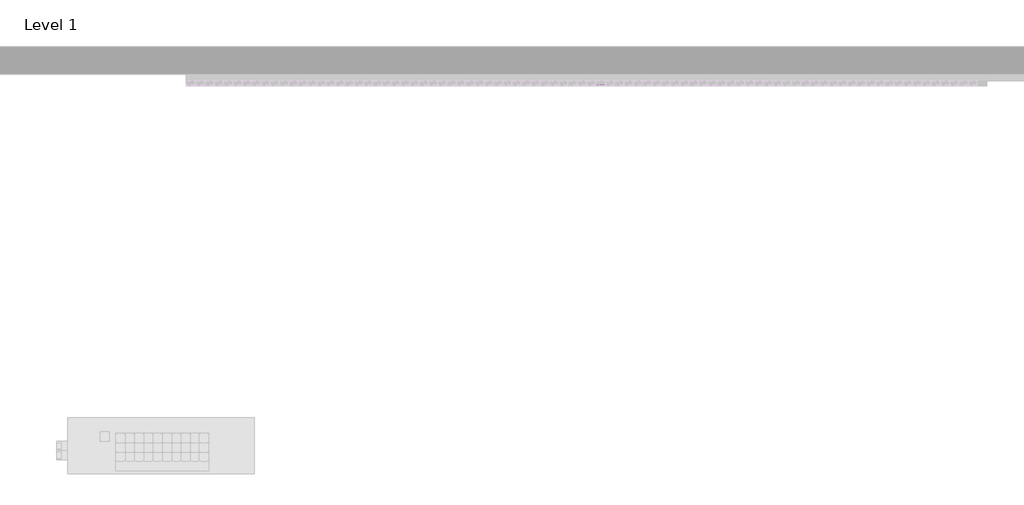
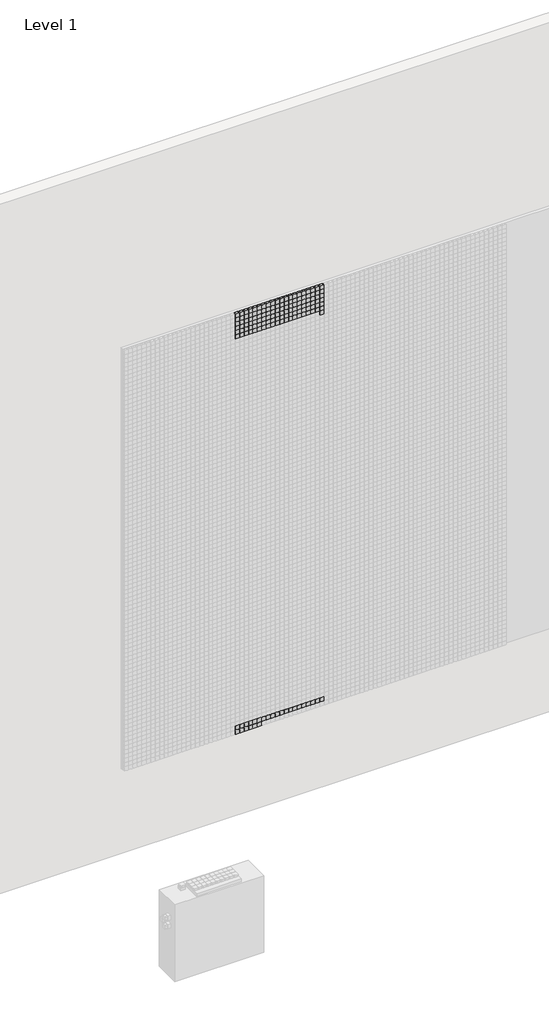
# One storey, part 21 of 71: 147 proxies.
"""IFC4 building model written with IfcOpenShell, lengths in millimetres."""

from ifc_helpers import new_model, si_unit, origin, place, context, project, spatial, transform, mapped, element, save
from components import generic_models_afde289c

model = new_model("IFC4")

# Units and contexts
model_context = context("Model", 3, world=origin())
ifc_project = project(units=[si_unit("LENGTHUNIT", "METRE", prefix="MILLI")], contexts=[model_context])

# Site, building, storey
site = spatial("IfcSite", under=ifc_project)
building = spatial("IfcBuilding", under=site)
storey = spatial("IfcBuildingStorey", under=building, Name="Level 1", Elevation=0.0)

# Proxies
placement = place(None, origin())
generic_models_shape = generic_models_afde289c(model_context)
element("IfcBuildingElementProxy", 1, Name="Pixel_M : Pixel_M", ObjectType="Pixel_M : Pixel_M", at=placement, inside=storey, context=model_context, shape_type="MappedRepresentation", body=[
    mapped(generic_models_shape, transform((6262.4280941, -75.0, 1016.3566215), x_axis=(1.0, 0.0, 0.0), y_axis=(0.0, 0.0, 1.0), z_axis=(0.0, -1.0, 0.0))),
])
element("IfcBuildingElementProxy", 2, Name="Pixel_M : Pixel_M", ObjectType="Pixel_M : Pixel_M", at=placement, inside=storey, context=model_context, shape_type="MappedRepresentation", body=[
    mapped(generic_models_shape, transform((6212.4280941, -75.0, 1016.3566215), x_axis=(1.0, 0.0, 0.0), y_axis=(0.0, 0.0, 1.0), z_axis=(0.0, -1.0, 0.0))),
])
element("IfcBuildingElementProxy", 3, Name="Pixel_M : Pixel_M", ObjectType="Pixel_M : Pixel_M", at=placement, inside=storey, context=model_context, shape_type="MappedRepresentation", body=[
    mapped(generic_models_shape, transform((6162.4280941, -75.0, 1016.3566215), x_axis=(1.0, 0.0, 0.0), y_axis=(0.0, 0.0, 1.0), z_axis=(0.0, -1.0, 0.0))),
])
element("IfcBuildingElementProxy", 4, Name="Pixel_M : Pixel_M", ObjectType="Pixel_M : Pixel_M", at=placement, inside=storey, context=model_context, shape_type="MappedRepresentation", body=[
    mapped(generic_models_shape, transform((6112.4280941, -75.0, 1016.3566215), x_axis=(1.0, 0.0, 0.0), y_axis=(0.0, 0.0, 1.0), z_axis=(0.0, -1.0, 0.0))),
])
element("IfcBuildingElementProxy", 5, Name="Pixel_M : Pixel_M", ObjectType="Pixel_M : Pixel_M", at=placement, inside=storey, context=model_context, shape_type="MappedRepresentation", body=[
    mapped(generic_models_shape, transform((6062.4280941, -75.0, 1016.3566215), x_axis=(1.0, 0.0, 0.0), y_axis=(0.0, 0.0, 1.0), z_axis=(0.0, -1.0, 0.0))),
])
element("IfcBuildingElementProxy", 6, Name="Pixel_M : Pixel_M", ObjectType="Pixel_M : Pixel_M", at=placement, inside=storey, context=model_context, shape_type="MappedRepresentation", body=[
    mapped(generic_models_shape, transform((6012.4280941, -75.0, 1016.3566215), x_axis=(1.0, 0.0, 0.0), y_axis=(0.0, 0.0, 1.0), z_axis=(0.0, -1.0, 0.0))),
])
element("IfcBuildingElementProxy", 7, Name="Pixel_M : Pixel_M", ObjectType="Pixel_M : Pixel_M", at=placement, inside=storey, context=model_context, shape_type="MappedRepresentation", body=[
    mapped(generic_models_shape, transform((6962.4280941, -75.0, 1066.3566215), x_axis=(1.0, 0.0, 0.0), y_axis=(0.0, 0.0, 1.0), z_axis=(0.0, -1.0, 0.0))),
])
element("IfcBuildingElementProxy", 8, Name="Pixel_M : Pixel_M", ObjectType="Pixel_M : Pixel_M", at=placement, inside=storey, context=model_context, shape_type="MappedRepresentation", body=[
    mapped(generic_models_shape, transform((6912.4280941, -75.0, 1066.3566215), x_axis=(1.0, 0.0, 0.0), y_axis=(0.0, 0.0, 1.0), z_axis=(0.0, -1.0, 0.0))),
])
element("IfcBuildingElementProxy", 9, Name="Pixel_M : Pixel_M", ObjectType="Pixel_M : Pixel_M", at=placement, inside=storey, context=model_context, shape_type="MappedRepresentation", body=[
    mapped(generic_models_shape, transform((6862.4280941, -75.0, 1066.3566215), x_axis=(1.0, 0.0, 0.0), y_axis=(0.0, 0.0, 1.0), z_axis=(0.0, -1.0, 0.0))),
])
element("IfcBuildingElementProxy", 10, Name="Pixel_M : Pixel_M", ObjectType="Pixel_M : Pixel_M", at=placement, inside=storey, context=model_context, shape_type="MappedRepresentation", body=[
    mapped(generic_models_shape, transform((6812.4280941, -75.0, 1066.3566215), x_axis=(1.0, 0.0, 0.0), y_axis=(0.0, 0.0, 1.0), z_axis=(0.0, -1.0, 0.0))),
])
element("IfcBuildingElementProxy", 11, Name="Pixel_M : Pixel_M", ObjectType="Pixel_M : Pixel_M", at=placement, inside=storey, context=model_context, shape_type="MappedRepresentation", body=[
    mapped(generic_models_shape, transform((6762.4280941, -75.0, 1066.3566215), x_axis=(1.0, 0.0, 0.0), y_axis=(0.0, 0.0, 1.0), z_axis=(0.0, -1.0, 0.0))),
])
element("IfcBuildingElementProxy", 12, Name="Pixel_M : Pixel_M", ObjectType="Pixel_M : Pixel_M", at=placement, inside=storey, context=model_context, shape_type="MappedRepresentation", body=[
    mapped(generic_models_shape, transform((6712.4280941, -75.0, 1066.3566215), x_axis=(1.0, 0.0, 0.0), y_axis=(0.0, 0.0, 1.0), z_axis=(0.0, -1.0, 0.0))),
])
element("IfcBuildingElementProxy", 13, Name="Pixel_M : Pixel_M", ObjectType="Pixel_M : Pixel_M", at=placement, inside=storey, context=model_context, shape_type="MappedRepresentation", body=[
    mapped(generic_models_shape, transform((6662.4280941, -75.0, 1066.3566215), x_axis=(1.0, 0.0, 0.0), y_axis=(0.0, 0.0, 1.0), z_axis=(0.0, -1.0, 0.0))),
])
element("IfcBuildingElementProxy", 14, Name="Pixel_M : Pixel_M", ObjectType="Pixel_M : Pixel_M", at=placement, inside=storey, context=model_context, shape_type="MappedRepresentation", body=[
    mapped(generic_models_shape, transform((6612.4280941, -75.0, 1066.3566215), x_axis=(1.0, 0.0, 0.0), y_axis=(0.0, 0.0, 1.0), z_axis=(0.0, -1.0, 0.0))),
])
element("IfcBuildingElementProxy", 15, Name="Pixel_M : Pixel_M", ObjectType="Pixel_M : Pixel_M", at=placement, inside=storey, context=model_context, shape_type="MappedRepresentation", body=[
    mapped(generic_models_shape, transform((6562.4280941, -75.0, 1066.3566215), x_axis=(1.0, 0.0, 0.0), y_axis=(0.0, 0.0, 1.0), z_axis=(0.0, -1.0, 0.0))),
])
element("IfcBuildingElementProxy", 16, Name="Pixel_M : Pixel_M", ObjectType="Pixel_M : Pixel_M", at=placement, inside=storey, context=model_context, shape_type="MappedRepresentation", body=[
    mapped(generic_models_shape, transform((6512.4280941, -75.0, 1066.3566215), x_axis=(1.0, 0.0, 0.0), y_axis=(0.0, 0.0, 1.0), z_axis=(0.0, -1.0, 0.0))),
])
element("IfcBuildingElementProxy", 17, Name="Pixel_M : Pixel_M", ObjectType="Pixel_M : Pixel_M", at=placement, inside=storey, context=model_context, shape_type="MappedRepresentation", body=[
    mapped(generic_models_shape, transform((6462.4280941, -75.0, 1066.3566215), x_axis=(1.0, 0.0, 0.0), y_axis=(0.0, 0.0, 1.0), z_axis=(0.0, -1.0, 0.0))),
])
element("IfcBuildingElementProxy", 18, Name="Pixel_M : Pixel_M", ObjectType="Pixel_M : Pixel_M", at=placement, inside=storey, context=model_context, shape_type="MappedRepresentation", body=[
    mapped(generic_models_shape, transform((6412.4280941, -75.0, 1066.3566215), x_axis=(1.0, 0.0, 0.0), y_axis=(0.0, 0.0, 1.0), z_axis=(0.0, -1.0, 0.0))),
])
element("IfcBuildingElementProxy", 19, Name="Pixel_M : Pixel_M", ObjectType="Pixel_M : Pixel_M", at=placement, inside=storey, context=model_context, shape_type="MappedRepresentation", body=[
    mapped(generic_models_shape, transform((6362.4280941, -75.0, 1066.3566215), x_axis=(1.0, 0.0, 0.0), y_axis=(0.0, 0.0, 1.0), z_axis=(0.0, -1.0, 0.0))),
])
element("IfcBuildingElementProxy", 20, Name="Pixel_M : Pixel_M", ObjectType="Pixel_M : Pixel_M", at=placement, inside=storey, context=model_context, shape_type="MappedRepresentation", body=[
    mapped(generic_models_shape, transform((6312.4280941, -75.0, 1066.3566215), x_axis=(1.0, 0.0, 0.0), y_axis=(0.0, 0.0, 1.0), z_axis=(0.0, -1.0, 0.0))),
])
element("IfcBuildingElementProxy", 21, Name="Pixel_M : Pixel_M", ObjectType="Pixel_M : Pixel_M", at=placement, inside=storey, context=model_context, shape_type="MappedRepresentation", body=[
    mapped(generic_models_shape, transform((6262.4280941, -75.0, 1066.3566215), x_axis=(1.0, 0.0, 0.0), y_axis=(0.0, 0.0, 1.0), z_axis=(0.0, -1.0, 0.0))),
])
element("IfcBuildingElementProxy", 22, Name="Pixel_M : Pixel_M", ObjectType="Pixel_M : Pixel_M", at=placement, inside=storey, context=model_context, shape_type="MappedRepresentation", body=[
    mapped(generic_models_shape, transform((6212.4280941, -75.0, 1066.3566215), x_axis=(1.0, 0.0, 0.0), y_axis=(0.0, 0.0, 1.0), z_axis=(0.0, -1.0, 0.0))),
])
element("IfcBuildingElementProxy", 23, Name="Pixel_M : Pixel_M", ObjectType="Pixel_M : Pixel_M", at=placement, inside=storey, context=model_context, shape_type="MappedRepresentation", body=[
    mapped(generic_models_shape, transform((6162.4280941, -75.0, 1066.3566215), x_axis=(1.0, 0.0, 0.0), y_axis=(0.0, 0.0, 1.0), z_axis=(0.0, -1.0, 0.0))),
])
element("IfcBuildingElementProxy", 24, Name="Pixel_M : Pixel_M", ObjectType="Pixel_M : Pixel_M", at=placement, inside=storey, context=model_context, shape_type="MappedRepresentation", body=[
    mapped(generic_models_shape, transform((6112.4280941, -75.0, 1066.3566215), x_axis=(1.0, 0.0, 0.0), y_axis=(0.0, 0.0, 1.0), z_axis=(0.0, -1.0, 0.0))),
])
element("IfcBuildingElementProxy", 25, Name="Pixel_M : Pixel_M", ObjectType="Pixel_M : Pixel_M", at=placement, inside=storey, context=model_context, shape_type="MappedRepresentation", body=[
    mapped(generic_models_shape, transform((6062.4280941, -75.0, 1066.3566215), x_axis=(1.0, 0.0, 0.0), y_axis=(0.0, 0.0, 1.0), z_axis=(0.0, -1.0, 0.0))),
])
element("IfcBuildingElementProxy", 26, Name="Pixel_M : Pixel_M", ObjectType="Pixel_M : Pixel_M", at=placement, inside=storey, context=model_context, shape_type="MappedRepresentation", body=[
    mapped(generic_models_shape, transform((6012.4280941, -75.0, 1066.3566215), x_axis=(1.0, 0.0, 0.0), y_axis=(0.0, 0.0, 1.0), z_axis=(0.0, -1.0, 0.0))),
])
element("IfcBuildingElementProxy", 27, Name="Pixel_M : Pixel_M", ObjectType="Pixel_M : Pixel_M", at=placement, inside=storey, context=model_context, shape_type="MappedRepresentation", body=[
    mapped(generic_models_shape, transform((6962.4280941, -75.0, 5966.3566215), x_axis=(1.0, 0.0, 0.0), y_axis=(0.0, 0.0, 1.0), z_axis=(0.0, -1.0, 0.0))),
])
element("IfcBuildingElementProxy", 28, Name="Pixel_M : Pixel_M", ObjectType="Pixel_M : Pixel_M", at=placement, inside=storey, context=model_context, shape_type="MappedRepresentation", body=[
    mapped(generic_models_shape, transform((6912.4280941, -75.0, 5966.3566215), x_axis=(1.0, 0.0, 0.0), y_axis=(0.0, 0.0, 1.0), z_axis=(0.0, -1.0, 0.0))),
])
element("IfcBuildingElementProxy", 29, Name="Pixel_M : Pixel_M", ObjectType="Pixel_M : Pixel_M", at=placement, inside=storey, context=model_context, shape_type="MappedRepresentation", body=[
    mapped(generic_models_shape, transform((6862.4280941, -75.0, 5966.3566215), x_axis=(1.0, 0.0, 0.0), y_axis=(0.0, 0.0, 1.0), z_axis=(0.0, -1.0, 0.0))),
])
element("IfcBuildingElementProxy", 30, Name="Pixel_M : Pixel_M", ObjectType="Pixel_M : Pixel_M", at=placement, inside=storey, context=model_context, shape_type="MappedRepresentation", body=[
    mapped(generic_models_shape, transform((6812.4280941, -75.0, 5966.3566215), x_axis=(1.0, 0.0, 0.0), y_axis=(0.0, 0.0, 1.0), z_axis=(0.0, -1.0, 0.0))),
])
element("IfcBuildingElementProxy", 31, Name="Pixel_M : Pixel_M", ObjectType="Pixel_M : Pixel_M", at=placement, inside=storey, context=model_context, shape_type="MappedRepresentation", body=[
    mapped(generic_models_shape, transform((6762.4280941, -75.0, 5966.3566215), x_axis=(1.0, 0.0, 0.0), y_axis=(0.0, 0.0, 1.0), z_axis=(0.0, -1.0, 0.0))),
])
element("IfcBuildingElementProxy", 32, Name="Pixel_M : Pixel_M", ObjectType="Pixel_M : Pixel_M", at=placement, inside=storey, context=model_context, shape_type="MappedRepresentation", body=[
    mapped(generic_models_shape, transform((6712.4280941, -75.0, 5966.3566215), x_axis=(1.0, 0.0, 0.0), y_axis=(0.0, 0.0, 1.0), z_axis=(0.0, -1.0, 0.0))),
])
element("IfcBuildingElementProxy", 33, Name="Pixel_M : Pixel_M", ObjectType="Pixel_M : Pixel_M", at=placement, inside=storey, context=model_context, shape_type="MappedRepresentation", body=[
    mapped(generic_models_shape, transform((6662.4280941, -75.0, 5966.3566215), x_axis=(1.0, 0.0, 0.0), y_axis=(0.0, 0.0, 1.0), z_axis=(0.0, -1.0, 0.0))),
])
element("IfcBuildingElementProxy", 34, Name="Pixel_M : Pixel_M", ObjectType="Pixel_M : Pixel_M", at=placement, inside=storey, context=model_context, shape_type="MappedRepresentation", body=[
    mapped(generic_models_shape, transform((6612.4280941, -75.0, 5966.3566215), x_axis=(1.0, 0.0, 0.0), y_axis=(0.0, 0.0, 1.0), z_axis=(0.0, -1.0, 0.0))),
])
element("IfcBuildingElementProxy", 35, Name="Pixel_M : Pixel_M", ObjectType="Pixel_M : Pixel_M", at=placement, inside=storey, context=model_context, shape_type="MappedRepresentation", body=[
    mapped(generic_models_shape, transform((6562.4280941, -75.0, 5966.3566215), x_axis=(1.0, 0.0, 0.0), y_axis=(0.0, 0.0, 1.0), z_axis=(0.0, -1.0, 0.0))),
])
element("IfcBuildingElementProxy", 36, Name="Pixel_M : Pixel_M", ObjectType="Pixel_M : Pixel_M", at=placement, inside=storey, context=model_context, shape_type="MappedRepresentation", body=[
    mapped(generic_models_shape, transform((6512.4280941, -75.0, 5966.3566215), x_axis=(1.0, 0.0, 0.0), y_axis=(0.0, 0.0, 1.0), z_axis=(0.0, -1.0, 0.0))),
])
element("IfcBuildingElementProxy", 37, Name="Pixel_M : Pixel_M", ObjectType="Pixel_M : Pixel_M", at=placement, inside=storey, context=model_context, shape_type="MappedRepresentation", body=[
    mapped(generic_models_shape, transform((6462.4280941, -75.0, 5966.3566215), x_axis=(1.0, 0.0, 0.0), y_axis=(0.0, 0.0, 1.0), z_axis=(0.0, -1.0, 0.0))),
])
element("IfcBuildingElementProxy", 38, Name="Pixel_M : Pixel_M", ObjectType="Pixel_M : Pixel_M", at=placement, inside=storey, context=model_context, shape_type="MappedRepresentation", body=[
    mapped(generic_models_shape, transform((6412.4280941, -75.0, 5966.3566215), x_axis=(1.0, 0.0, 0.0), y_axis=(0.0, 0.0, 1.0), z_axis=(0.0, -1.0, 0.0))),
])
element("IfcBuildingElementProxy", 39, Name="Pixel_M : Pixel_M", ObjectType="Pixel_M : Pixel_M", at=placement, inside=storey, context=model_context, shape_type="MappedRepresentation", body=[
    mapped(generic_models_shape, transform((6362.4280941, -75.0, 5966.3566215), x_axis=(1.0, 0.0, 0.0), y_axis=(0.0, 0.0, 1.0), z_axis=(0.0, -1.0, 0.0))),
])
element("IfcBuildingElementProxy", 40, Name="Pixel_M : Pixel_M", ObjectType="Pixel_M : Pixel_M", at=placement, inside=storey, context=model_context, shape_type="MappedRepresentation", body=[
    mapped(generic_models_shape, transform((6312.4280941, -75.0, 5966.3566215), x_axis=(1.0, 0.0, 0.0), y_axis=(0.0, 0.0, 1.0), z_axis=(0.0, -1.0, 0.0))),
])
element("IfcBuildingElementProxy", 41, Name="Pixel_M : Pixel_M", ObjectType="Pixel_M : Pixel_M", at=placement, inside=storey, context=model_context, shape_type="MappedRepresentation", body=[
    mapped(generic_models_shape, transform((6262.4280941, -75.0, 5966.3566215), x_axis=(1.0, 0.0, 0.0), y_axis=(0.0, 0.0, 1.0), z_axis=(0.0, -1.0, 0.0))),
])
element("IfcBuildingElementProxy", 42, Name="Pixel_M : Pixel_M", ObjectType="Pixel_M : Pixel_M", at=placement, inside=storey, context=model_context, shape_type="MappedRepresentation", body=[
    mapped(generic_models_shape, transform((6212.4280941, -75.0, 5966.3566215), x_axis=(1.0, 0.0, 0.0), y_axis=(0.0, 0.0, 1.0), z_axis=(0.0, -1.0, 0.0))),
])
element("IfcBuildingElementProxy", 43, Name="Pixel_M : Pixel_M", ObjectType="Pixel_M : Pixel_M", at=placement, inside=storey, context=model_context, shape_type="MappedRepresentation", body=[
    mapped(generic_models_shape, transform((6162.4280941, -75.0, 5966.3566215), x_axis=(1.0, 0.0, 0.0), y_axis=(0.0, 0.0, 1.0), z_axis=(0.0, -1.0, 0.0))),
])
element("IfcBuildingElementProxy", 44, Name="Pixel_M : Pixel_M", ObjectType="Pixel_M : Pixel_M", at=placement, inside=storey, context=model_context, shape_type="MappedRepresentation", body=[
    mapped(generic_models_shape, transform((6112.4280941, -75.0, 5966.3566215), x_axis=(1.0, 0.0, 0.0), y_axis=(0.0, 0.0, 1.0), z_axis=(0.0, -1.0, 0.0))),
])
element("IfcBuildingElementProxy", 45, Name="Pixel_M : Pixel_M", ObjectType="Pixel_M : Pixel_M", at=placement, inside=storey, context=model_context, shape_type="MappedRepresentation", body=[
    mapped(generic_models_shape, transform((6062.4280941, -75.0, 5966.3566215), x_axis=(1.0, 0.0, 0.0), y_axis=(0.0, 0.0, 1.0), z_axis=(0.0, -1.0, 0.0))),
])
element("IfcBuildingElementProxy", 46, Name="Pixel_M : Pixel_M", ObjectType="Pixel_M : Pixel_M", at=placement, inside=storey, context=model_context, shape_type="MappedRepresentation", body=[
    mapped(generic_models_shape, transform((6012.4280941, -75.0, 5966.3566215), x_axis=(1.0, 0.0, 0.0), y_axis=(0.0, 0.0, 1.0), z_axis=(0.0, -1.0, 0.0))),
])
element("IfcBuildingElementProxy", 47, Name="Pixel_M : Pixel_M", ObjectType="Pixel_M : Pixel_M", at=placement, inside=storey, context=model_context, shape_type="MappedRepresentation", body=[
    mapped(generic_models_shape, transform((6962.4280941, -75.0, 5916.3566215), x_axis=(1.0, 0.0, 0.0), y_axis=(0.0, 0.0, 1.0), z_axis=(0.0, -1.0, 0.0))),
])
element("IfcBuildingElementProxy", 48, Name="Pixel_M : Pixel_M", ObjectType="Pixel_M : Pixel_M", at=placement, inside=storey, context=model_context, shape_type="MappedRepresentation", body=[
    mapped(generic_models_shape, transform((6912.4280941, -75.0, 5916.3566215), x_axis=(1.0, 0.0, 0.0), y_axis=(0.0, 0.0, 1.0), z_axis=(0.0, -1.0, 0.0))),
])
element("IfcBuildingElementProxy", 49, Name="Pixel_M : Pixel_M", ObjectType="Pixel_M : Pixel_M", at=placement, inside=storey, context=model_context, shape_type="MappedRepresentation", body=[
    mapped(generic_models_shape, transform((6862.4280941, -75.0, 5916.3566215), x_axis=(1.0, 0.0, 0.0), y_axis=(0.0, 0.0, 1.0), z_axis=(0.0, -1.0, 0.0))),
])
element("IfcBuildingElementProxy", 50, Name="Pixel_M : Pixel_M", ObjectType="Pixel_M : Pixel_M", at=placement, inside=storey, context=model_context, shape_type="MappedRepresentation", body=[
    mapped(generic_models_shape, transform((6812.4280941, -75.0, 5916.3566215), x_axis=(1.0, 0.0, 0.0), y_axis=(0.0, 0.0, 1.0), z_axis=(0.0, -1.0, 0.0))),
])
element("IfcBuildingElementProxy", 51, Name="Pixel_M : Pixel_M", ObjectType="Pixel_M : Pixel_M", at=placement, inside=storey, context=model_context, shape_type="MappedRepresentation", body=[
    mapped(generic_models_shape, transform((6762.4280941, -75.0, 5916.3566215), x_axis=(1.0, 0.0, 0.0), y_axis=(0.0, 0.0, 1.0), z_axis=(0.0, -1.0, 0.0))),
])
element("IfcBuildingElementProxy", 52, Name="Pixel_M : Pixel_M", ObjectType="Pixel_M : Pixel_M", at=placement, inside=storey, context=model_context, shape_type="MappedRepresentation", body=[
    mapped(generic_models_shape, transform((6712.4280941, -75.0, 5916.3566215), x_axis=(1.0, 0.0, 0.0), y_axis=(0.0, 0.0, 1.0), z_axis=(0.0, -1.0, 0.0))),
])
element("IfcBuildingElementProxy", 53, Name="Pixel_M : Pixel_M", ObjectType="Pixel_M : Pixel_M", at=placement, inside=storey, context=model_context, shape_type="MappedRepresentation", body=[
    mapped(generic_models_shape, transform((6662.4280941, -75.0, 5916.3566215), x_axis=(1.0, 0.0, 0.0), y_axis=(0.0, 0.0, 1.0), z_axis=(0.0, -1.0, 0.0))),
])
element("IfcBuildingElementProxy", 54, Name="Pixel_M : Pixel_M", ObjectType="Pixel_M : Pixel_M", at=placement, inside=storey, context=model_context, shape_type="MappedRepresentation", body=[
    mapped(generic_models_shape, transform((6612.4280941, -75.0, 5916.3566215), x_axis=(1.0, 0.0, 0.0), y_axis=(0.0, 0.0, 1.0), z_axis=(0.0, -1.0, 0.0))),
])
element("IfcBuildingElementProxy", 55, Name="Pixel_M : Pixel_M", ObjectType="Pixel_M : Pixel_M", at=placement, inside=storey, context=model_context, shape_type="MappedRepresentation", body=[
    mapped(generic_models_shape, transform((6562.4280941, -75.0, 5916.3566215), x_axis=(1.0, 0.0, 0.0), y_axis=(0.0, 0.0, 1.0), z_axis=(0.0, -1.0, 0.0))),
])
element("IfcBuildingElementProxy", 56, Name="Pixel_M : Pixel_M", ObjectType="Pixel_M : Pixel_M", at=placement, inside=storey, context=model_context, shape_type="MappedRepresentation", body=[
    mapped(generic_models_shape, transform((6512.4280941, -75.0, 5916.3566215), x_axis=(1.0, 0.0, 0.0), y_axis=(0.0, 0.0, 1.0), z_axis=(0.0, -1.0, 0.0))),
])
element("IfcBuildingElementProxy", 57, Name="Pixel_M : Pixel_M", ObjectType="Pixel_M : Pixel_M", at=placement, inside=storey, context=model_context, shape_type="MappedRepresentation", body=[
    mapped(generic_models_shape, transform((6462.4280941, -75.0, 5916.3566215), x_axis=(1.0, 0.0, 0.0), y_axis=(0.0, 0.0, 1.0), z_axis=(0.0, -1.0, 0.0))),
])
element("IfcBuildingElementProxy", 58, Name="Pixel_M : Pixel_M", ObjectType="Pixel_M : Pixel_M", at=placement, inside=storey, context=model_context, shape_type="MappedRepresentation", body=[
    mapped(generic_models_shape, transform((6412.4280941, -75.0, 5916.3566215), x_axis=(1.0, 0.0, 0.0), y_axis=(0.0, 0.0, 1.0), z_axis=(0.0, -1.0, 0.0))),
])
element("IfcBuildingElementProxy", 59, Name="Pixel_M : Pixel_M", ObjectType="Pixel_M : Pixel_M", at=placement, inside=storey, context=model_context, shape_type="MappedRepresentation", body=[
    mapped(generic_models_shape, transform((6362.4280941, -75.0, 5916.3566215), x_axis=(1.0, 0.0, 0.0), y_axis=(0.0, 0.0, 1.0), z_axis=(0.0, -1.0, 0.0))),
])
element("IfcBuildingElementProxy", 60, Name="Pixel_M : Pixel_M", ObjectType="Pixel_M : Pixel_M", at=placement, inside=storey, context=model_context, shape_type="MappedRepresentation", body=[
    mapped(generic_models_shape, transform((6312.4280941, -75.0, 5916.3566215), x_axis=(1.0, 0.0, 0.0), y_axis=(0.0, 0.0, 1.0), z_axis=(0.0, -1.0, 0.0))),
])
element("IfcBuildingElementProxy", 61, Name="Pixel_M : Pixel_M", ObjectType="Pixel_M : Pixel_M", at=placement, inside=storey, context=model_context, shape_type="MappedRepresentation", body=[
    mapped(generic_models_shape, transform((6262.4280941, -75.0, 5916.3566215), x_axis=(1.0, 0.0, 0.0), y_axis=(0.0, 0.0, 1.0), z_axis=(0.0, -1.0, 0.0))),
])
element("IfcBuildingElementProxy", 62, Name="Pixel_M : Pixel_M", ObjectType="Pixel_M : Pixel_M", at=placement, inside=storey, context=model_context, shape_type="MappedRepresentation", body=[
    mapped(generic_models_shape, transform((6212.4280941, -75.0, 5916.3566215), x_axis=(1.0, 0.0, 0.0), y_axis=(0.0, 0.0, 1.0), z_axis=(0.0, -1.0, 0.0))),
])
element("IfcBuildingElementProxy", 63, Name="Pixel_M : Pixel_M", ObjectType="Pixel_M : Pixel_M", at=placement, inside=storey, context=model_context, shape_type="MappedRepresentation", body=[
    mapped(generic_models_shape, transform((6162.4280941, -75.0, 5916.3566215), x_axis=(1.0, 0.0, 0.0), y_axis=(0.0, 0.0, 1.0), z_axis=(0.0, -1.0, 0.0))),
])
element("IfcBuildingElementProxy", 64, Name="Pixel_M : Pixel_M", ObjectType="Pixel_M : Pixel_M", at=placement, inside=storey, context=model_context, shape_type="MappedRepresentation", body=[
    mapped(generic_models_shape, transform((6112.4280941, -75.0, 5916.3566215), x_axis=(1.0, 0.0, 0.0), y_axis=(0.0, 0.0, 1.0), z_axis=(0.0, -1.0, 0.0))),
])
element("IfcBuildingElementProxy", 65, Name="Pixel_M : Pixel_M", ObjectType="Pixel_M : Pixel_M", at=placement, inside=storey, context=model_context, shape_type="MappedRepresentation", body=[
    mapped(generic_models_shape, transform((6062.4280941, -75.0, 5916.3566215), x_axis=(1.0, 0.0, 0.0), y_axis=(0.0, 0.0, 1.0), z_axis=(0.0, -1.0, 0.0))),
])
element("IfcBuildingElementProxy", 66, Name="Pixel_M : Pixel_M", ObjectType="Pixel_M : Pixel_M", at=placement, inside=storey, context=model_context, shape_type="MappedRepresentation", body=[
    mapped(generic_models_shape, transform((6012.4280941, -75.0, 5916.3566215), x_axis=(1.0, 0.0, 0.0), y_axis=(0.0, 0.0, 1.0), z_axis=(0.0, -1.0, 0.0))),
])
element("IfcBuildingElementProxy", 67, Name="Pixel_M : Pixel_M", ObjectType="Pixel_M : Pixel_M", at=placement, inside=storey, context=model_context, shape_type="MappedRepresentation", body=[
    mapped(generic_models_shape, transform((6962.4280941, -75.0, 5866.3566215), x_axis=(1.0, 0.0, 0.0), y_axis=(0.0, 0.0, 1.0), z_axis=(0.0, -1.0, 0.0))),
])
element("IfcBuildingElementProxy", 68, Name="Pixel_M : Pixel_M", ObjectType="Pixel_M : Pixel_M", at=placement, inside=storey, context=model_context, shape_type="MappedRepresentation", body=[
    mapped(generic_models_shape, transform((6912.4280941, -75.0, 5866.3566215), x_axis=(1.0, 0.0, 0.0), y_axis=(0.0, 0.0, 1.0), z_axis=(0.0, -1.0, 0.0))),
])
element("IfcBuildingElementProxy", 69, Name="Pixel_M : Pixel_M", ObjectType="Pixel_M : Pixel_M", at=placement, inside=storey, context=model_context, shape_type="MappedRepresentation", body=[
    mapped(generic_models_shape, transform((6862.4280941, -75.0, 5866.3566215), x_axis=(1.0, 0.0, 0.0), y_axis=(0.0, 0.0, 1.0), z_axis=(0.0, -1.0, 0.0))),
])
element("IfcBuildingElementProxy", 70, Name="Pixel_M : Pixel_M", ObjectType="Pixel_M : Pixel_M", at=placement, inside=storey, context=model_context, shape_type="MappedRepresentation", body=[
    mapped(generic_models_shape, transform((6812.4280941, -75.0, 5866.3566215), x_axis=(1.0, 0.0, 0.0), y_axis=(0.0, 0.0, 1.0), z_axis=(0.0, -1.0, 0.0))),
])
element("IfcBuildingElementProxy", 71, Name="Pixel_M : Pixel_M", ObjectType="Pixel_M : Pixel_M", at=placement, inside=storey, context=model_context, shape_type="MappedRepresentation", body=[
    mapped(generic_models_shape, transform((6762.4280941, -75.0, 5866.3566215), x_axis=(1.0, 0.0, 0.0), y_axis=(0.0, 0.0, 1.0), z_axis=(0.0, -1.0, 0.0))),
])
element("IfcBuildingElementProxy", 72, Name="Pixel_M : Pixel_M", ObjectType="Pixel_M : Pixel_M", at=placement, inside=storey, context=model_context, shape_type="MappedRepresentation", body=[
    mapped(generic_models_shape, transform((6712.4280941, -75.0, 5866.3566215), x_axis=(1.0, 0.0, 0.0), y_axis=(0.0, 0.0, 1.0), z_axis=(0.0, -1.0, 0.0))),
])
element("IfcBuildingElementProxy", 73, Name="Pixel_M : Pixel_M", ObjectType="Pixel_M : Pixel_M", at=placement, inside=storey, context=model_context, shape_type="MappedRepresentation", body=[
    mapped(generic_models_shape, transform((6662.4280941, -75.0, 5866.3566215), x_axis=(1.0, 0.0, 0.0), y_axis=(0.0, 0.0, 1.0), z_axis=(0.0, -1.0, 0.0))),
])
element("IfcBuildingElementProxy", 74, Name="Pixel_M : Pixel_M", ObjectType="Pixel_M : Pixel_M", at=placement, inside=storey, context=model_context, shape_type="MappedRepresentation", body=[
    mapped(generic_models_shape, transform((6612.4280941, -75.0, 5866.3566215), x_axis=(1.0, 0.0, 0.0), y_axis=(0.0, 0.0, 1.0), z_axis=(0.0, -1.0, 0.0))),
])
element("IfcBuildingElementProxy", 75, Name="Pixel_M : Pixel_M", ObjectType="Pixel_M : Pixel_M", at=placement, inside=storey, context=model_context, shape_type="MappedRepresentation", body=[
    mapped(generic_models_shape, transform((6562.4280941, -75.0, 5866.3566215), x_axis=(1.0, 0.0, 0.0), y_axis=(0.0, 0.0, 1.0), z_axis=(0.0, -1.0, 0.0))),
])
element("IfcBuildingElementProxy", 76, Name="Pixel_M : Pixel_M", ObjectType="Pixel_M : Pixel_M", at=placement, inside=storey, context=model_context, shape_type="MappedRepresentation", body=[
    mapped(generic_models_shape, transform((6512.4280941, -75.0, 5866.3566215), x_axis=(1.0, 0.0, 0.0), y_axis=(0.0, 0.0, 1.0), z_axis=(0.0, -1.0, 0.0))),
])
element("IfcBuildingElementProxy", 77, Name="Pixel_M : Pixel_M", ObjectType="Pixel_M : Pixel_M", at=placement, inside=storey, context=model_context, shape_type="MappedRepresentation", body=[
    mapped(generic_models_shape, transform((6462.4280941, -75.0, 5866.3566215), x_axis=(1.0, 0.0, 0.0), y_axis=(0.0, 0.0, 1.0), z_axis=(0.0, -1.0, 0.0))),
])
element("IfcBuildingElementProxy", 78, Name="Pixel_M : Pixel_M", ObjectType="Pixel_M : Pixel_M", at=placement, inside=storey, context=model_context, shape_type="MappedRepresentation", body=[
    mapped(generic_models_shape, transform((6412.4280941, -75.0, 5866.3566215), x_axis=(1.0, 0.0, 0.0), y_axis=(0.0, 0.0, 1.0), z_axis=(0.0, -1.0, 0.0))),
])
element("IfcBuildingElementProxy", 79, Name="Pixel_M : Pixel_M", ObjectType="Pixel_M : Pixel_M", at=placement, inside=storey, context=model_context, shape_type="MappedRepresentation", body=[
    mapped(generic_models_shape, transform((6362.4280941, -75.0, 5866.3566215), x_axis=(1.0, 0.0, 0.0), y_axis=(0.0, 0.0, 1.0), z_axis=(0.0, -1.0, 0.0))),
])
element("IfcBuildingElementProxy", 80, Name="Pixel_M : Pixel_M", ObjectType="Pixel_M : Pixel_M", at=placement, inside=storey, context=model_context, shape_type="MappedRepresentation", body=[
    mapped(generic_models_shape, transform((6312.4280941, -75.0, 5866.3566215), x_axis=(1.0, 0.0, 0.0), y_axis=(0.0, 0.0, 1.0), z_axis=(0.0, -1.0, 0.0))),
])
element("IfcBuildingElementProxy", 81, Name="Pixel_M : Pixel_M", ObjectType="Pixel_M : Pixel_M", at=placement, inside=storey, context=model_context, shape_type="MappedRepresentation", body=[
    mapped(generic_models_shape, transform((6262.4280941, -75.0, 5866.3566215), x_axis=(1.0, 0.0, 0.0), y_axis=(0.0, 0.0, 1.0), z_axis=(0.0, -1.0, 0.0))),
])
element("IfcBuildingElementProxy", 82, Name="Pixel_M : Pixel_M", ObjectType="Pixel_M : Pixel_M", at=placement, inside=storey, context=model_context, shape_type="MappedRepresentation", body=[
    mapped(generic_models_shape, transform((6212.4280941, -75.0, 5866.3566215), x_axis=(1.0, 0.0, 0.0), y_axis=(0.0, 0.0, 1.0), z_axis=(0.0, -1.0, 0.0))),
])
element("IfcBuildingElementProxy", 83, Name="Pixel_M : Pixel_M", ObjectType="Pixel_M : Pixel_M", at=placement, inside=storey, context=model_context, shape_type="MappedRepresentation", body=[
    mapped(generic_models_shape, transform((6162.4280941, -75.0, 5866.3566215), x_axis=(1.0, 0.0, 0.0), y_axis=(0.0, 0.0, 1.0), z_axis=(0.0, -1.0, 0.0))),
])
element("IfcBuildingElementProxy", 84, Name="Pixel_M : Pixel_M", ObjectType="Pixel_M : Pixel_M", at=placement, inside=storey, context=model_context, shape_type="MappedRepresentation", body=[
    mapped(generic_models_shape, transform((6112.4280941, -75.0, 5866.3566215), x_axis=(1.0, 0.0, 0.0), y_axis=(0.0, 0.0, 1.0), z_axis=(0.0, -1.0, 0.0))),
])
element("IfcBuildingElementProxy", 85, Name="Pixel_M : Pixel_M", ObjectType="Pixel_M : Pixel_M", at=placement, inside=storey, context=model_context, shape_type="MappedRepresentation", body=[
    mapped(generic_models_shape, transform((6062.4280941, -75.0, 5866.3566215), x_axis=(1.0, 0.0, 0.0), y_axis=(0.0, 0.0, 1.0), z_axis=(0.0, -1.0, 0.0))),
])
element("IfcBuildingElementProxy", 86, Name="Pixel_M : Pixel_M", ObjectType="Pixel_M : Pixel_M", at=placement, inside=storey, context=model_context, shape_type="MappedRepresentation", body=[
    mapped(generic_models_shape, transform((6012.4280941, -75.0, 5866.3566215), x_axis=(1.0, 0.0, 0.0), y_axis=(0.0, 0.0, 1.0), z_axis=(0.0, -1.0, 0.0))),
])
element("IfcBuildingElementProxy", 87, Name="Pixel_M : Pixel_M", ObjectType="Pixel_M : Pixel_M", at=placement, inside=storey, context=model_context, shape_type="MappedRepresentation", body=[
    mapped(generic_models_shape, transform((6962.4280941, -75.0, 5816.3566215), x_axis=(1.0, 0.0, 0.0), y_axis=(0.0, 0.0, 1.0), z_axis=(0.0, -1.0, 0.0))),
])
element("IfcBuildingElementProxy", 88, Name="Pixel_M : Pixel_M", ObjectType="Pixel_M : Pixel_M", at=placement, inside=storey, context=model_context, shape_type="MappedRepresentation", body=[
    mapped(generic_models_shape, transform((6912.4280941, -75.0, 5816.3566215), x_axis=(1.0, 0.0, 0.0), y_axis=(0.0, 0.0, 1.0), z_axis=(0.0, -1.0, 0.0))),
])
element("IfcBuildingElementProxy", 89, Name="Pixel_M : Pixel_M", ObjectType="Pixel_M : Pixel_M", at=placement, inside=storey, context=model_context, shape_type="MappedRepresentation", body=[
    mapped(generic_models_shape, transform((6862.4280941, -75.0, 5816.3566215), x_axis=(1.0, 0.0, 0.0), y_axis=(0.0, 0.0, 1.0), z_axis=(0.0, -1.0, 0.0))),
])
element("IfcBuildingElementProxy", 90, Name="Pixel_M : Pixel_M", ObjectType="Pixel_M : Pixel_M", at=placement, inside=storey, context=model_context, shape_type="MappedRepresentation", body=[
    mapped(generic_models_shape, transform((6812.4280941, -75.0, 5816.3566215), x_axis=(1.0, 0.0, 0.0), y_axis=(0.0, 0.0, 1.0), z_axis=(0.0, -1.0, 0.0))),
])
element("IfcBuildingElementProxy", 91, Name="Pixel_M : Pixel_M", ObjectType="Pixel_M : Pixel_M", at=placement, inside=storey, context=model_context, shape_type="MappedRepresentation", body=[
    mapped(generic_models_shape, transform((6762.4280941, -75.0, 5816.3566215), x_axis=(1.0, 0.0, 0.0), y_axis=(0.0, 0.0, 1.0), z_axis=(0.0, -1.0, 0.0))),
])
element("IfcBuildingElementProxy", 92, Name="Pixel_M : Pixel_M", ObjectType="Pixel_M : Pixel_M", at=placement, inside=storey, context=model_context, shape_type="MappedRepresentation", body=[
    mapped(generic_models_shape, transform((6712.4280941, -75.0, 5816.3566215), x_axis=(1.0, 0.0, 0.0), y_axis=(0.0, 0.0, 1.0), z_axis=(0.0, -1.0, 0.0))),
])
element("IfcBuildingElementProxy", 93, Name="Pixel_M : Pixel_M", ObjectType="Pixel_M : Pixel_M", at=placement, inside=storey, context=model_context, shape_type="MappedRepresentation", body=[
    mapped(generic_models_shape, transform((6662.4280941, -75.0, 5816.3566215), x_axis=(1.0, 0.0, 0.0), y_axis=(0.0, 0.0, 1.0), z_axis=(0.0, -1.0, 0.0))),
])
element("IfcBuildingElementProxy", 94, Name="Pixel_M : Pixel_M", ObjectType="Pixel_M : Pixel_M", at=placement, inside=storey, context=model_context, shape_type="MappedRepresentation", body=[
    mapped(generic_models_shape, transform((6612.4280941, -75.0, 5816.3566215), x_axis=(1.0, 0.0, 0.0), y_axis=(0.0, 0.0, 1.0), z_axis=(0.0, -1.0, 0.0))),
])
element("IfcBuildingElementProxy", 95, Name="Pixel_M : Pixel_M", ObjectType="Pixel_M : Pixel_M", at=placement, inside=storey, context=model_context, shape_type="MappedRepresentation", body=[
    mapped(generic_models_shape, transform((6562.4280941, -75.0, 5816.3566215), x_axis=(1.0, 0.0, 0.0), y_axis=(0.0, 0.0, 1.0), z_axis=(0.0, -1.0, 0.0))),
])
element("IfcBuildingElementProxy", 96, Name="Pixel_M : Pixel_M", ObjectType="Pixel_M : Pixel_M", at=placement, inside=storey, context=model_context, shape_type="MappedRepresentation", body=[
    mapped(generic_models_shape, transform((6512.4280941, -75.0, 5816.3566215), x_axis=(1.0, 0.0, 0.0), y_axis=(0.0, 0.0, 1.0), z_axis=(0.0, -1.0, 0.0))),
])
element("IfcBuildingElementProxy", 97, Name="Pixel_M : Pixel_M", ObjectType="Pixel_M : Pixel_M", at=placement, inside=storey, context=model_context, shape_type="MappedRepresentation", body=[
    mapped(generic_models_shape, transform((6462.4280941, -75.0, 5816.3566215), x_axis=(1.0, 0.0, 0.0), y_axis=(0.0, 0.0, 1.0), z_axis=(0.0, -1.0, 0.0))),
])
element("IfcBuildingElementProxy", 98, Name="Pixel_M : Pixel_M", ObjectType="Pixel_M : Pixel_M", at=placement, inside=storey, context=model_context, shape_type="MappedRepresentation", body=[
    mapped(generic_models_shape, transform((6412.4280941, -75.0, 5816.3566215), x_axis=(1.0, 0.0, 0.0), y_axis=(0.0, 0.0, 1.0), z_axis=(0.0, -1.0, 0.0))),
])
element("IfcBuildingElementProxy", 99, Name="Pixel_M : Pixel_M", ObjectType="Pixel_M : Pixel_M", at=placement, inside=storey, context=model_context, shape_type="MappedRepresentation", body=[
    mapped(generic_models_shape, transform((6362.4280941, -75.0, 5816.3566215), x_axis=(1.0, 0.0, 0.0), y_axis=(0.0, 0.0, 1.0), z_axis=(0.0, -1.0, 0.0))),
])
element("IfcBuildingElementProxy", 100, Name="Pixel_M : Pixel_M", ObjectType="Pixel_M : Pixel_M", at=placement, inside=storey, context=model_context, shape_type="MappedRepresentation", body=[
    mapped(generic_models_shape, transform((6312.4280941, -75.0, 5816.3566215), x_axis=(1.0, 0.0, 0.0), y_axis=(0.0, 0.0, 1.0), z_axis=(0.0, -1.0, 0.0))),
])
element("IfcBuildingElementProxy", 101, Name="Pixel_M : Pixel_M", ObjectType="Pixel_M : Pixel_M", at=placement, inside=storey, context=model_context, shape_type="MappedRepresentation", body=[
    mapped(generic_models_shape, transform((6262.4280941, -75.0, 5816.3566215), x_axis=(1.0, 0.0, 0.0), y_axis=(0.0, 0.0, 1.0), z_axis=(0.0, -1.0, 0.0))),
])
element("IfcBuildingElementProxy", 102, Name="Pixel_M : Pixel_M", ObjectType="Pixel_M : Pixel_M", at=placement, inside=storey, context=model_context, shape_type="MappedRepresentation", body=[
    mapped(generic_models_shape, transform((6212.4280941, -75.0, 5816.3566215), x_axis=(1.0, 0.0, 0.0), y_axis=(0.0, 0.0, 1.0), z_axis=(0.0, -1.0, 0.0))),
])
element("IfcBuildingElementProxy", 103, Name="Pixel_M : Pixel_M", ObjectType="Pixel_M : Pixel_M", at=placement, inside=storey, context=model_context, shape_type="MappedRepresentation", body=[
    mapped(generic_models_shape, transform((6162.4280941, -75.0, 5816.3566215), x_axis=(1.0, 0.0, 0.0), y_axis=(0.0, 0.0, 1.0), z_axis=(0.0, -1.0, 0.0))),
])
element("IfcBuildingElementProxy", 104, Name="Pixel_M : Pixel_M", ObjectType="Pixel_M : Pixel_M", at=placement, inside=storey, context=model_context, shape_type="MappedRepresentation", body=[
    mapped(generic_models_shape, transform((6112.4280941, -75.0, 5816.3566215), x_axis=(1.0, 0.0, 0.0), y_axis=(0.0, 0.0, 1.0), z_axis=(0.0, -1.0, 0.0))),
])
element("IfcBuildingElementProxy", 105, Name="Pixel_M : Pixel_M", ObjectType="Pixel_M : Pixel_M", at=placement, inside=storey, context=model_context, shape_type="MappedRepresentation", body=[
    mapped(generic_models_shape, transform((6062.4280941, -75.0, 5816.3566215), x_axis=(1.0, 0.0, 0.0), y_axis=(0.0, 0.0, 1.0), z_axis=(0.0, -1.0, 0.0))),
])
element("IfcBuildingElementProxy", 106, Name="Pixel_M : Pixel_M", ObjectType="Pixel_M : Pixel_M", at=placement, inside=storey, context=model_context, shape_type="MappedRepresentation", body=[
    mapped(generic_models_shape, transform((6012.4280941, -75.0, 5816.3566215), x_axis=(1.0, 0.0, 0.0), y_axis=(0.0, 0.0, 1.0), z_axis=(0.0, -1.0, 0.0))),
])
element("IfcBuildingElementProxy", 107, Name="Pixel_M : Pixel_M", ObjectType="Pixel_M : Pixel_M", at=placement, inside=storey, context=model_context, shape_type="MappedRepresentation", body=[
    mapped(generic_models_shape, transform((6962.4280941, -75.0, 5766.3566215), x_axis=(1.0, 0.0, 0.0), y_axis=(0.0, 0.0, 1.0), z_axis=(0.0, -1.0, 0.0))),
])
element("IfcBuildingElementProxy", 108, Name="Pixel_M : Pixel_M", ObjectType="Pixel_M : Pixel_M", at=placement, inside=storey, context=model_context, shape_type="MappedRepresentation", body=[
    mapped(generic_models_shape, transform((6912.4280941, -75.0, 5766.3566215), x_axis=(1.0, 0.0, 0.0), y_axis=(0.0, 0.0, 1.0), z_axis=(0.0, -1.0, 0.0))),
])
element("IfcBuildingElementProxy", 109, Name="Pixel_M : Pixel_M", ObjectType="Pixel_M : Pixel_M", at=placement, inside=storey, context=model_context, shape_type="MappedRepresentation", body=[
    mapped(generic_models_shape, transform((6862.4280941, -75.0, 5766.3566215), x_axis=(1.0, 0.0, 0.0), y_axis=(0.0, 0.0, 1.0), z_axis=(0.0, -1.0, 0.0))),
])
element("IfcBuildingElementProxy", 110, Name="Pixel_M : Pixel_M", ObjectType="Pixel_M : Pixel_M", at=placement, inside=storey, context=model_context, shape_type="MappedRepresentation", body=[
    mapped(generic_models_shape, transform((6812.4280941, -75.0, 5766.3566215), x_axis=(1.0, 0.0, 0.0), y_axis=(0.0, 0.0, 1.0), z_axis=(0.0, -1.0, 0.0))),
])
element("IfcBuildingElementProxy", 111, Name="Pixel_M : Pixel_M", ObjectType="Pixel_M : Pixel_M", at=placement, inside=storey, context=model_context, shape_type="MappedRepresentation", body=[
    mapped(generic_models_shape, transform((6762.4280941, -75.0, 5766.3566215), x_axis=(1.0, 0.0, 0.0), y_axis=(0.0, 0.0, 1.0), z_axis=(0.0, -1.0, 0.0))),
])
element("IfcBuildingElementProxy", 112, Name="Pixel_M : Pixel_M", ObjectType="Pixel_M : Pixel_M", at=placement, inside=storey, context=model_context, shape_type="MappedRepresentation", body=[
    mapped(generic_models_shape, transform((6712.4280941, -75.0, 5766.3566215), x_axis=(1.0, 0.0, 0.0), y_axis=(0.0, 0.0, 1.0), z_axis=(0.0, -1.0, 0.0))),
])
element("IfcBuildingElementProxy", 113, Name="Pixel_M : Pixel_M", ObjectType="Pixel_M : Pixel_M", at=placement, inside=storey, context=model_context, shape_type="MappedRepresentation", body=[
    mapped(generic_models_shape, transform((6662.4280941, -75.0, 5766.3566215), x_axis=(1.0, 0.0, 0.0), y_axis=(0.0, 0.0, 1.0), z_axis=(0.0, -1.0, 0.0))),
])
element("IfcBuildingElementProxy", 114, Name="Pixel_M : Pixel_M", ObjectType="Pixel_M : Pixel_M", at=placement, inside=storey, context=model_context, shape_type="MappedRepresentation", body=[
    mapped(generic_models_shape, transform((6612.4280941, -75.0, 5766.3566215), x_axis=(1.0, 0.0, 0.0), y_axis=(0.0, 0.0, 1.0), z_axis=(0.0, -1.0, 0.0))),
])
element("IfcBuildingElementProxy", 115, Name="Pixel_M : Pixel_M", ObjectType="Pixel_M : Pixel_M", at=placement, inside=storey, context=model_context, shape_type="MappedRepresentation", body=[
    mapped(generic_models_shape, transform((6562.4280941, -75.0, 5766.3566215), x_axis=(1.0, 0.0, 0.0), y_axis=(0.0, 0.0, 1.0), z_axis=(0.0, -1.0, 0.0))),
])
element("IfcBuildingElementProxy", 116, Name="Pixel_M : Pixel_M", ObjectType="Pixel_M : Pixel_M", at=placement, inside=storey, context=model_context, shape_type="MappedRepresentation", body=[
    mapped(generic_models_shape, transform((6512.4280941, -75.0, 5766.3566215), x_axis=(1.0, 0.0, 0.0), y_axis=(0.0, 0.0, 1.0), z_axis=(0.0, -1.0, 0.0))),
])
element("IfcBuildingElementProxy", 117, Name="Pixel_M : Pixel_M", ObjectType="Pixel_M : Pixel_M", at=placement, inside=storey, context=model_context, shape_type="MappedRepresentation", body=[
    mapped(generic_models_shape, transform((6462.4280941, -75.0, 5766.3566215), x_axis=(1.0, 0.0, 0.0), y_axis=(0.0, 0.0, 1.0), z_axis=(0.0, -1.0, 0.0))),
])
element("IfcBuildingElementProxy", 118, Name="Pixel_M : Pixel_M", ObjectType="Pixel_M : Pixel_M", at=placement, inside=storey, context=model_context, shape_type="MappedRepresentation", body=[
    mapped(generic_models_shape, transform((6412.4280941, -75.0, 5766.3566215), x_axis=(1.0, 0.0, 0.0), y_axis=(0.0, 0.0, 1.0), z_axis=(0.0, -1.0, 0.0))),
])
element("IfcBuildingElementProxy", 119, Name="Pixel_M : Pixel_M", ObjectType="Pixel_M : Pixel_M", at=placement, inside=storey, context=model_context, shape_type="MappedRepresentation", body=[
    mapped(generic_models_shape, transform((6362.4280941, -75.0, 5766.3566215), x_axis=(1.0, 0.0, 0.0), y_axis=(0.0, 0.0, 1.0), z_axis=(0.0, -1.0, 0.0))),
])
element("IfcBuildingElementProxy", 120, Name="Pixel_M : Pixel_M", ObjectType="Pixel_M : Pixel_M", at=placement, inside=storey, context=model_context, shape_type="MappedRepresentation", body=[
    mapped(generic_models_shape, transform((6312.4280941, -75.0, 5766.3566215), x_axis=(1.0, 0.0, 0.0), y_axis=(0.0, 0.0, 1.0), z_axis=(0.0, -1.0, 0.0))),
])
element("IfcBuildingElementProxy", 121, Name="Pixel_M : Pixel_M", ObjectType="Pixel_M : Pixel_M", at=placement, inside=storey, context=model_context, shape_type="MappedRepresentation", body=[
    mapped(generic_models_shape, transform((6262.4280941, -75.0, 5766.3566215), x_axis=(1.0, 0.0, 0.0), y_axis=(0.0, 0.0, 1.0), z_axis=(0.0, -1.0, 0.0))),
])
element("IfcBuildingElementProxy", 122, Name="Pixel_M : Pixel_M", ObjectType="Pixel_M : Pixel_M", at=placement, inside=storey, context=model_context, shape_type="MappedRepresentation", body=[
    mapped(generic_models_shape, transform((6212.4280941, -75.0, 5766.3566215), x_axis=(1.0, 0.0, 0.0), y_axis=(0.0, 0.0, 1.0), z_axis=(0.0, -1.0, 0.0))),
])
element("IfcBuildingElementProxy", 123, Name="Pixel_M : Pixel_M", ObjectType="Pixel_M : Pixel_M", at=placement, inside=storey, context=model_context, shape_type="MappedRepresentation", body=[
    mapped(generic_models_shape, transform((6162.4280941, -75.0, 5766.3566215), x_axis=(1.0, 0.0, 0.0), y_axis=(0.0, 0.0, 1.0), z_axis=(0.0, -1.0, 0.0))),
])
element("IfcBuildingElementProxy", 124, Name="Pixel_M : Pixel_M", ObjectType="Pixel_M : Pixel_M", at=placement, inside=storey, context=model_context, shape_type="MappedRepresentation", body=[
    mapped(generic_models_shape, transform((6112.4280941, -75.0, 5766.3566215), x_axis=(1.0, 0.0, 0.0), y_axis=(0.0, 0.0, 1.0), z_axis=(0.0, -1.0, 0.0))),
])
element("IfcBuildingElementProxy", 125, Name="Pixel_M : Pixel_M", ObjectType="Pixel_M : Pixel_M", at=placement, inside=storey, context=model_context, shape_type="MappedRepresentation", body=[
    mapped(generic_models_shape, transform((6062.4280941, -75.0, 5766.3566215), x_axis=(1.0, 0.0, 0.0), y_axis=(0.0, 0.0, 1.0), z_axis=(0.0, -1.0, 0.0))),
])
element("IfcBuildingElementProxy", 126, Name="Pixel_M : Pixel_M", ObjectType="Pixel_M : Pixel_M", at=placement, inside=storey, context=model_context, shape_type="MappedRepresentation", body=[
    mapped(generic_models_shape, transform((6012.4280941, -75.0, 5766.3566215), x_axis=(1.0, 0.0, 0.0), y_axis=(0.0, 0.0, 1.0), z_axis=(0.0, -1.0, 0.0))),
])
element("IfcBuildingElementProxy", 127, Name="Pixel_M : Pixel_M", ObjectType="Pixel_M : Pixel_M", at=placement, inside=storey, context=model_context, shape_type="MappedRepresentation", body=[
    mapped(generic_models_shape, transform((6962.4280941, -75.0, 5716.3566215), x_axis=(1.0, 0.0, 0.0), y_axis=(0.0, 0.0, 1.0), z_axis=(0.0, -1.0, 0.0))),
])
element("IfcBuildingElementProxy", 128, Name="Pixel_M : Pixel_M", ObjectType="Pixel_M : Pixel_M", at=placement, inside=storey, context=model_context, shape_type="MappedRepresentation", body=[
    mapped(generic_models_shape, transform((6912.4280941, -75.0, 5716.3566215), x_axis=(1.0, 0.0, 0.0), y_axis=(0.0, 0.0, 1.0), z_axis=(0.0, -1.0, 0.0))),
])
element("IfcBuildingElementProxy", 129, Name="Pixel_M : Pixel_M", ObjectType="Pixel_M : Pixel_M", at=placement, inside=storey, context=model_context, shape_type="MappedRepresentation", body=[
    mapped(generic_models_shape, transform((6862.4280941, -75.0, 5716.3566215), x_axis=(1.0, 0.0, 0.0), y_axis=(0.0, 0.0, 1.0), z_axis=(0.0, -1.0, 0.0))),
])
element("IfcBuildingElementProxy", 130, Name="Pixel_M : Pixel_M", ObjectType="Pixel_M : Pixel_M", at=placement, inside=storey, context=model_context, shape_type="MappedRepresentation", body=[
    mapped(generic_models_shape, transform((6812.4280941, -75.0, 5716.3566215), x_axis=(1.0, 0.0, 0.0), y_axis=(0.0, 0.0, 1.0), z_axis=(0.0, -1.0, 0.0))),
])
element("IfcBuildingElementProxy", 131, Name="Pixel_M : Pixel_M", ObjectType="Pixel_M : Pixel_M", at=placement, inside=storey, context=model_context, shape_type="MappedRepresentation", body=[
    mapped(generic_models_shape, transform((6762.4280941, -75.0, 5716.3566215), x_axis=(1.0, 0.0, 0.0), y_axis=(0.0, 0.0, 1.0), z_axis=(0.0, -1.0, 0.0))),
])
element("IfcBuildingElementProxy", 132, Name="Pixel_M : Pixel_M", ObjectType="Pixel_M : Pixel_M", at=placement, inside=storey, context=model_context, shape_type="MappedRepresentation", body=[
    mapped(generic_models_shape, transform((6712.4280941, -75.0, 5716.3566215), x_axis=(1.0, 0.0, 0.0), y_axis=(0.0, 0.0, 1.0), z_axis=(0.0, -1.0, 0.0))),
])
element("IfcBuildingElementProxy", 133, Name="Pixel_M : Pixel_M", ObjectType="Pixel_M : Pixel_M", at=placement, inside=storey, context=model_context, shape_type="MappedRepresentation", body=[
    mapped(generic_models_shape, transform((6662.4280941, -75.0, 5716.3566215), x_axis=(1.0, 0.0, 0.0), y_axis=(0.0, 0.0, 1.0), z_axis=(0.0, -1.0, 0.0))),
])
element("IfcBuildingElementProxy", 134, Name="Pixel_M : Pixel_M", ObjectType="Pixel_M : Pixel_M", at=placement, inside=storey, context=model_context, shape_type="MappedRepresentation", body=[
    mapped(generic_models_shape, transform((6612.4280941, -75.0, 5716.3566215), x_axis=(1.0, 0.0, 0.0), y_axis=(0.0, 0.0, 1.0), z_axis=(0.0, -1.0, 0.0))),
])
element("IfcBuildingElementProxy", 135, Name="Pixel_M : Pixel_M", ObjectType="Pixel_M : Pixel_M", at=placement, inside=storey, context=model_context, shape_type="MappedRepresentation", body=[
    mapped(generic_models_shape, transform((6562.4280941, -75.0, 5716.3566215), x_axis=(1.0, 0.0, 0.0), y_axis=(0.0, 0.0, 1.0), z_axis=(0.0, -1.0, 0.0))),
])
element("IfcBuildingElementProxy", 136, Name="Pixel_M : Pixel_M", ObjectType="Pixel_M : Pixel_M", at=placement, inside=storey, context=model_context, shape_type="MappedRepresentation", body=[
    mapped(generic_models_shape, transform((6512.4280941, -75.0, 5716.3566215), x_axis=(1.0, 0.0, 0.0), y_axis=(0.0, 0.0, 1.0), z_axis=(0.0, -1.0, 0.0))),
])
element("IfcBuildingElementProxy", 137, Name="Pixel_M : Pixel_M", ObjectType="Pixel_M : Pixel_M", at=placement, inside=storey, context=model_context, shape_type="MappedRepresentation", body=[
    mapped(generic_models_shape, transform((6462.4280941, -75.0, 5716.3566215), x_axis=(1.0, 0.0, 0.0), y_axis=(0.0, 0.0, 1.0), z_axis=(0.0, -1.0, 0.0))),
])
element("IfcBuildingElementProxy", 138, Name="Pixel_M : Pixel_M", ObjectType="Pixel_M : Pixel_M", at=placement, inside=storey, context=model_context, shape_type="MappedRepresentation", body=[
    mapped(generic_models_shape, transform((6412.4280941, -75.0, 5716.3566215), x_axis=(1.0, 0.0, 0.0), y_axis=(0.0, 0.0, 1.0), z_axis=(0.0, -1.0, 0.0))),
])
element("IfcBuildingElementProxy", 139, Name="Pixel_M : Pixel_M", ObjectType="Pixel_M : Pixel_M", at=placement, inside=storey, context=model_context, shape_type="MappedRepresentation", body=[
    mapped(generic_models_shape, transform((6362.4280941, -75.0, 5716.3566215), x_axis=(1.0, 0.0, 0.0), y_axis=(0.0, 0.0, 1.0), z_axis=(0.0, -1.0, 0.0))),
])
element("IfcBuildingElementProxy", 140, Name="Pixel_M : Pixel_M", ObjectType="Pixel_M : Pixel_M", at=placement, inside=storey, context=model_context, shape_type="MappedRepresentation", body=[
    mapped(generic_models_shape, transform((6312.4280941, -75.0, 5716.3566215), x_axis=(1.0, 0.0, 0.0), y_axis=(0.0, 0.0, 1.0), z_axis=(0.0, -1.0, 0.0))),
])
element("IfcBuildingElementProxy", 141, Name="Pixel_M : Pixel_M", ObjectType="Pixel_M : Pixel_M", at=placement, inside=storey, context=model_context, shape_type="MappedRepresentation", body=[
    mapped(generic_models_shape, transform((6262.4280941, -75.0, 5716.3566215), x_axis=(1.0, 0.0, 0.0), y_axis=(0.0, 0.0, 1.0), z_axis=(0.0, -1.0, 0.0))),
])
element("IfcBuildingElementProxy", 142, Name="Pixel_M : Pixel_M", ObjectType="Pixel_M : Pixel_M", at=placement, inside=storey, context=model_context, shape_type="MappedRepresentation", body=[
    mapped(generic_models_shape, transform((6212.4280941, -75.0, 5716.3566215), x_axis=(1.0, 0.0, 0.0), y_axis=(0.0, 0.0, 1.0), z_axis=(0.0, -1.0, 0.0))),
])
element("IfcBuildingElementProxy", 143, Name="Pixel_M : Pixel_M", ObjectType="Pixel_M : Pixel_M", at=placement, inside=storey, context=model_context, shape_type="MappedRepresentation", body=[
    mapped(generic_models_shape, transform((6162.4280941, -75.0, 5716.3566215), x_axis=(1.0, 0.0, 0.0), y_axis=(0.0, 0.0, 1.0), z_axis=(0.0, -1.0, 0.0))),
])
element("IfcBuildingElementProxy", 144, Name="Pixel_M : Pixel_M", ObjectType="Pixel_M : Pixel_M", at=placement, inside=storey, context=model_context, shape_type="MappedRepresentation", body=[
    mapped(generic_models_shape, transform((6112.4280941, -75.0, 5716.3566215), x_axis=(1.0, 0.0, 0.0), y_axis=(0.0, 0.0, 1.0), z_axis=(0.0, -1.0, 0.0))),
])
element("IfcBuildingElementProxy", 145, Name="Pixel_M : Pixel_M", ObjectType="Pixel_M : Pixel_M", at=placement, inside=storey, context=model_context, shape_type="MappedRepresentation", body=[
    mapped(generic_models_shape, transform((6062.4280941, -75.0, 5716.3566215), x_axis=(1.0, 0.0, 0.0), y_axis=(0.0, 0.0, 1.0), z_axis=(0.0, -1.0, 0.0))),
])
element("IfcBuildingElementProxy", 146, Name="Pixel_M : Pixel_M", ObjectType="Pixel_M : Pixel_M", at=placement, inside=storey, context=model_context, shape_type="MappedRepresentation", body=[
    mapped(generic_models_shape, transform((6012.4280941, -75.0, 5716.3566215), x_axis=(1.0, 0.0, 0.0), y_axis=(0.0, 0.0, 1.0), z_axis=(0.0, -1.0, 0.0))),
])
element("IfcBuildingElementProxy", 147, Name="Pixel_M : Pixel_M", ObjectType="Pixel_M : Pixel_M", at=placement, inside=storey, context=model_context, shape_type="MappedRepresentation", body=[
    mapped(generic_models_shape, transform((6962.4280941, -75.0, 5666.3566215), x_axis=(1.0, 0.0, 0.0), y_axis=(0.0, 0.0, 1.0), z_axis=(0.0, -1.0, 0.0))),
])

save(model, "model.ifc")
